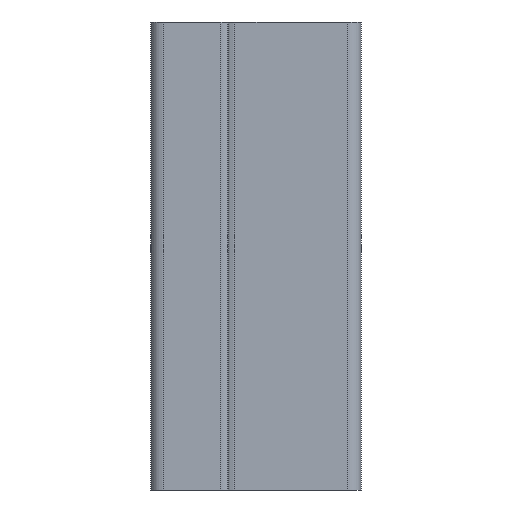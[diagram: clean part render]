
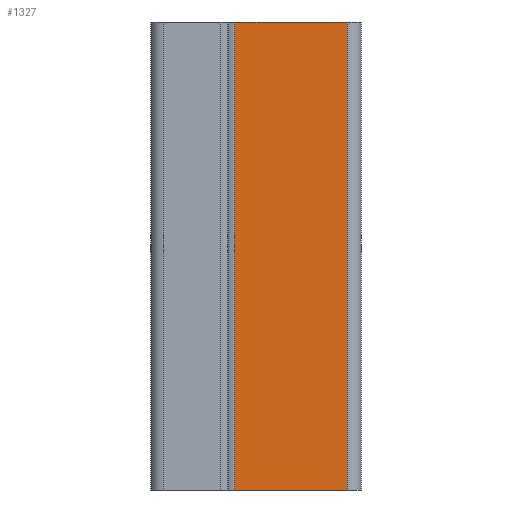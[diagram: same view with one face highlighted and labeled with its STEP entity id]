
A CAD part, left-side view. The second image highlights one B-rep face of the part: STEP entity #1327.
In plain terms, the highlighted planar face has unit normal (-1, 0, 0).
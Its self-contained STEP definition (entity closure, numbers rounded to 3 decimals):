
#26 = AXIS2_PLACEMENT_3D ( 'NONE', #488, #1338, #603 ) ;
#30 = VECTOR ( 'NONE', #983, 1000. ) ;
#41 = ORIENTED_EDGE ( 'NONE', *, *, #411, .T. ) ;
#59 = CARTESIAN_POINT ( 'NONE',  ( -17.5, 9.5, 0. ) ) ;
#80 = ORIENTED_EDGE ( 'NONE', *, *, #608, .F. ) ;
#82 = DIRECTION ( 'NONE',  ( 0., 0., -1. ) ) ;
#102 = EDGE_CURVE ( 'NONE', #368, #1278, #306, .T. ) ;
#135 = CARTESIAN_POINT ( 'NONE',  ( -17.5, 9.5, 100. ) ) ;
#147 = VECTOR ( 'NONE', #871, 1000. ) ;
#189 = VECTOR ( 'NONE', #82, 1000. ) ;
#275 = CARTESIAN_POINT ( 'NONE',  ( -17.5, -14.5, 100. ) ) ;
#306 = LINE ( 'NONE', #976, #147 ) ;
#344 = VECTOR ( 'NONE', #661, 1000. ) ;
#355 = EDGE_LOOP ( 'NONE', ( #41, #80, #367, #614 ) ) ;
#358 = LINE ( 'NONE', #659, #30 ) ;
#367 = ORIENTED_EDGE ( 'NONE', *, *, #102, .F. ) ;
#368 = VERTEX_POINT ( 'NONE', #135 ) ;
#402 = CARTESIAN_POINT ( 'NONE',  ( -17.5, -14.5, 0. ) ) ;
#411 = EDGE_CURVE ( 'NONE', #1196, #1295, #358, .T. ) ;
#460 = LINE ( 'NONE', #918, #189 ) ;
#488 = CARTESIAN_POINT ( 'NONE',  ( -17.5, -9.5, 100. ) ) ;
#603 = DIRECTION ( 'NONE',  ( 0., 0., -1. ) ) ;
#608 = EDGE_CURVE ( 'NONE', #1278, #1295, #460, .T. ) ;
#614 = ORIENTED_EDGE ( 'NONE', *, *, #935, .T. ) ;
#659 = CARTESIAN_POINT ( 'NONE',  ( -17.5, -9.5, 0. ) ) ;
#661 = DIRECTION ( 'NONE',  ( 0., 0., -1. ) ) ;
#724 = FACE_OUTER_BOUND ( 'NONE', #355, .T. ) ;
#871 = DIRECTION ( 'NONE',  ( 0., -1., 0. ) ) ;
#909 = LINE ( 'NONE', #980, #344 ) ;
#918 = CARTESIAN_POINT ( 'NONE',  ( -17.5, -14.5, 100. ) ) ;
#935 = EDGE_CURVE ( 'NONE', #368, #1196, #909, .T. ) ;
#976 = CARTESIAN_POINT ( 'NONE',  ( -17.5, -9.5, 100. ) ) ;
#980 = CARTESIAN_POINT ( 'NONE',  ( -17.5, 9.5, 100. ) ) ;
#983 = DIRECTION ( 'NONE',  ( 0., -1., 0. ) ) ;
#1196 = VERTEX_POINT ( 'NONE', #59 ) ;
#1278 = VERTEX_POINT ( 'NONE', #275 ) ;
#1295 = VERTEX_POINT ( 'NONE', #402 ) ;
#1327 = ADVANCED_FACE ( 'NONE', ( #724 ), #1346, .F. ) ;
#1338 = DIRECTION ( 'NONE',  ( 1., 0., 0. ) ) ;
#1346 = PLANE ( 'NONE',  #26 ) ;
